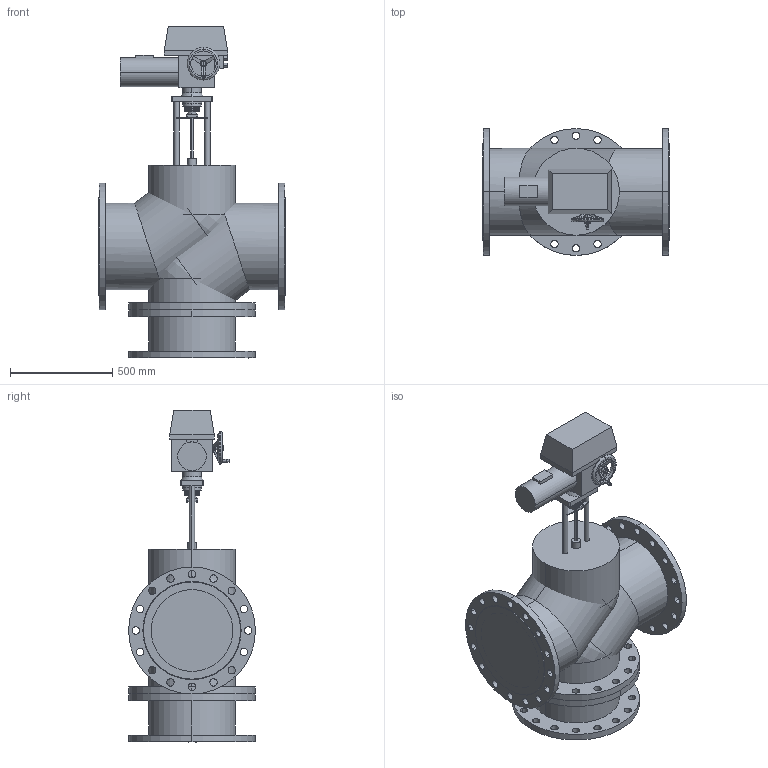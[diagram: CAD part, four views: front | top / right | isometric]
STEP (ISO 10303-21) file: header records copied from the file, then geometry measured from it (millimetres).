
FILE_DESCRIPTION(/* description */ (''),/* implementation_level */ '2;1');
FILE_NAME(/* name */ 'ТРК DN400 PN 2.5 МПа Regada MT',/* time_stamp */ '2026-07-14T23:18:02+03:00',/* author */ (''),/* organization */ (''),/* preprocessor_version */ 'ST-DEVELOPER v20',/* originating_system */ '',/* authorisation */ '');
FILE_SCHEMA (('AP242_MANAGED_MODEL_BASED_3D_ENGINEERING_MIM_LF { 1 0 10303 442 1 1 4 }'));
Length unit declared in the file: millimetre
Products named in the file (16): TopLevelAssembly; Выдавливание; Модификатор; Модификатор_1; Выдавливание_
1; Выдавливание_
2; Вращение; Выдавливание_
3; Выдавливание_
4; Выдавливание_
5; Выдавливание_
6; Выдавливание_
7; Привод_Regada MT; Переход; Объемная геометрия 
присоединена; Объемная геометрия 
присоединена_1
Assembly tree (15 placements, depth 2):
  TopLevelAssembly
    Выдавливание
    Модификатор
    Модификатор_1
    Выдавливание_
1
    Выдавливание_
2
    Вращение
    Выдавливание_
3
    Выдавливание_
4
    Выдавливание_
5
    Выдавливание_
6
    Выдавливание_
7
    Привод_Regada MT
    Переход
    Объемная геометрия 
присоединена
    Объемная геометрия 
присоединена_1
Bounding box: 914 x 620 x 1623 mm (x, y, z)
Volume: 336646679.4 mm3; surface area: 8683141.3 mm2
Topology: 36 solids, 36 shells, 439 faces, 1034 edges, 656 vertices
Faces by surface type: cylinder 256, plane 129, bspline 50, cone 4
Entity records: 14554 total; most frequent: CARTESIAN_POINT 3134, DIRECTION 2422, ORIENTED_EDGE 2048, EDGE_CURVE 1024, AXIS2_PLACEMENT_3D 1002, VERTEX_POINT 656, EDGE_LOOP 614, CIRCLE 574
